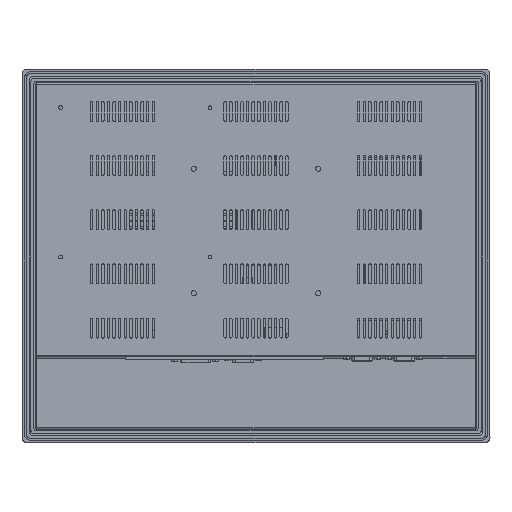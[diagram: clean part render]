
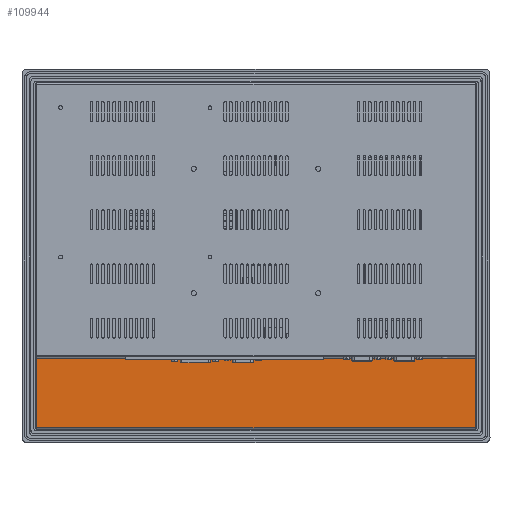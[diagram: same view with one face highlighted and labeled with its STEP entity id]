
A CAD part, top view. The second image highlights one B-rep face of the part: STEP entity #109944.
In plain terms, the highlighted planar face has unit normal (0, 0, 1).
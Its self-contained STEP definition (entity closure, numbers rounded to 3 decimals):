
#8696 = DIRECTION ( 'NONE',  ( 1., 0., 0. ) ) ;
#8844 = ORIENTED_EDGE ( 'NONE', *, *, #22184, .T. ) ;
#9776 = LINE ( 'NONE', #66706, #42449 ) ;
#10502 = CARTESIAN_POINT ( 'NONE',  ( 174.53, -135.53, 30.2 ) ) ;
#12341 = DIRECTION ( 'NONE',  ( 0., 1., 0. ) ) ;
#17229 = LINE ( 'NONE', #92408, #32868 ) ;
#21660 = EDGE_CURVE ( 'NONE', #78099, #107193, #9776, .T. ) ;
#22184 = EDGE_CURVE ( 'NONE', #107193, #44323, #38975, .T. ) ;
#22706 = EDGE_CURVE ( 'NONE', #40617, #78099, #79838, .T. ) ;
#25327 = ORIENTED_EDGE ( 'NONE', *, *, #22706, .T. ) ;
#27036 = EDGE_CURVE ( 'NONE', #44323, #40617, #17229, .T. ) ;
#29505 = CARTESIAN_POINT ( 'NONE',  ( -178.47, -135.53, 30.2 ) ) ;
#32868 = VECTOR ( 'NONE', #56343, 1000. ) ;
#36070 = AXIS2_PLACEMENT_3D ( 'NONE', #117280, #63022, #8696 ) ;
#38975 = LINE ( 'NONE', #56639, #63105 ) ;
#40617 = VERTEX_POINT ( 'NONE', #29505 ) ;
#42449 = VECTOR ( 'NONE', #12341, 1000. ) ;
#44323 = VERTEX_POINT ( 'NONE', #103356 ) ;
#46394 = CARTESIAN_POINT ( 'NONE',  ( 173.53, -79.53, 30.2 ) ) ;
#56343 = DIRECTION ( 'NONE',  ( 0., -1., 0. ) ) ;
#56639 = CARTESIAN_POINT ( 'NONE',  ( -217.092, -79.53, 30.2 ) ) ;
#62292 = CARTESIAN_POINT ( 'NONE',  ( 173.53, -135.53, 30.2 ) ) ;
#63022 = DIRECTION ( 'NONE',  ( 0., 0., 1. ) ) ;
#63051 = FACE_OUTER_BOUND ( 'NONE', #86064, .T. ) ;
#63105 = VECTOR ( 'NONE', #83981, 1000. ) ;
#66706 = CARTESIAN_POINT ( 'NONE',  ( 173.53, -78.53, 30.2 ) ) ;
#70149 = ORIENTED_EDGE ( 'NONE', *, *, #27036, .T. ) ;
#78099 = VERTEX_POINT ( 'NONE', #62292 ) ;
#79838 = LINE ( 'NONE', #10502, #82660 ) ;
#82660 = VECTOR ( 'NONE', #110408, 1000. ) ;
#83981 = DIRECTION ( 'NONE',  ( -1., 0., 0. ) ) ;
#86064 = EDGE_LOOP ( 'NONE', ( #25327, #110807, #8844, #70149 ) ) ;
#92408 = CARTESIAN_POINT ( 'NONE',  ( -178.47, -136.53, 30.2 ) ) ;
#98649 = PLANE ( 'NONE',  #36070 ) ;
#103356 = CARTESIAN_POINT ( 'NONE',  ( -178.47, -79.53, 30.2 ) ) ;
#107193 = VERTEX_POINT ( 'NONE', #46394 ) ;
#109944 = ADVANCED_FACE ( 'NONE', ( #63051 ), #98649, .T. ) ;
#110408 = DIRECTION ( 'NONE',  ( 1., 0., 0. ) ) ;
#110807 = ORIENTED_EDGE ( 'NONE', *, *, #21660, .T. ) ;
#117280 = CARTESIAN_POINT ( 'NONE',  ( -217.092, -175.874, 30.2 ) ) ;
